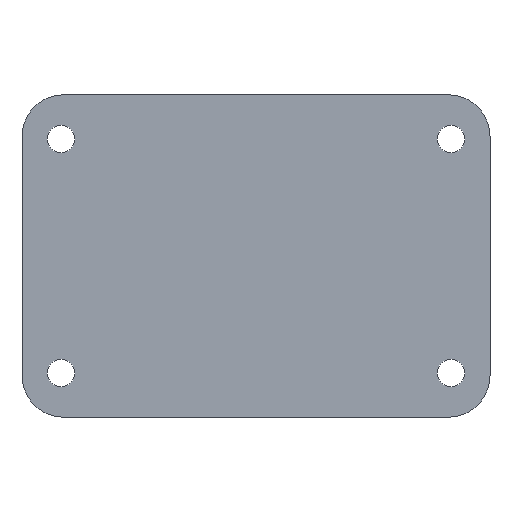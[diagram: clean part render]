
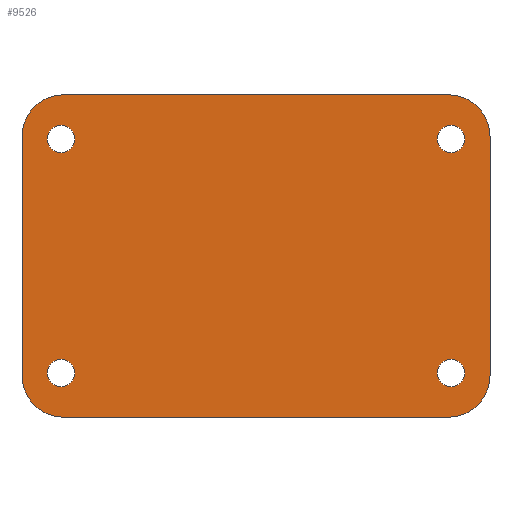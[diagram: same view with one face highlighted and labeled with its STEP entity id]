
A CAD part, front view. The second image highlights one B-rep face of the part: STEP entity #9526.
In plain terms, the highlighted planar face has unit normal (0, -1, 0).
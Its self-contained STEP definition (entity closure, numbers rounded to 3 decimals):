
#169 = FACE_OUTER_BOUND ( 'NONE', #10144, .T. ) ;
#208 = CARTESIAN_POINT ( 'NONE',  ( 37., 0., -23. ) ) ;
#269 = VERTEX_POINT ( 'NONE', #8679 ) ;
#342 = CARTESIAN_POINT ( 'NONE',  ( -37.5, 0., 22.5 ) ) ;
#456 = ORIENTED_EDGE ( 'NONE', *, *, #523, .T. ) ;
#523 = EDGE_CURVE ( 'NONE', #2121, #7831, #737, .T. ) ;
#538 = VERTEX_POINT ( 'NONE', #17700 ) ;
#673 = VERTEX_POINT ( 'NONE', #16707 ) ;
#737 = CIRCLE ( 'NONE', #6857, 2.65 ) ;
#814 = CARTESIAN_POINT ( 'NONE',  ( -37.5, 0., -22.5 ) ) ;
#841 = ORIENTED_EDGE ( 'NONE', *, *, #9748, .F. ) ;
#1061 = EDGE_CURVE ( 'NONE', #673, #12249, #11031, .T. ) ;
#1107 = DIRECTION ( 'NONE',  ( 0., 1., 0. ) ) ;
#1270 = DIRECTION ( 'NONE',  ( 0., 1., 0. ) ) ;
#1365 = CARTESIAN_POINT ( 'NONE',  ( -37.5, 0., 22.5 ) ) ;
#1441 = DIRECTION ( 'NONE',  ( 0., 0., -1. ) ) ;
#1506 = AXIS2_PLACEMENT_3D ( 'NONE', #814, #14577, #11650 ) ;
#1528 = DIRECTION ( 'NONE',  ( 0., 1., 0. ) ) ;
#1663 = CARTESIAN_POINT ( 'NONE',  ( 37.5, 0., -22.5 ) ) ;
#1712 = ORIENTED_EDGE ( 'NONE', *, *, #16436, .F. ) ;
#1716 = ORIENTED_EDGE ( 'NONE', *, *, #14119, .F. ) ;
#1872 = ORIENTED_EDGE ( 'NONE', *, *, #6082, .T. ) ;
#1965 = AXIS2_PLACEMENT_3D ( 'NONE', #342, #6028, #3116 ) ;
#1977 = VERTEX_POINT ( 'NONE', #9535 ) ;
#2051 = AXIS2_PLACEMENT_3D ( 'NONE', #1365, #1270, #10990 ) ;
#2121 = VERTEX_POINT ( 'NONE', #6452 ) ;
#2128 = CIRCLE ( 'NONE', #7652, 8. ) ;
#2248 = CIRCLE ( 'NONE', #1965, 2.65 ) ;
#2367 = CIRCLE ( 'NONE', #16322, 8. ) ;
#2416 = CARTESIAN_POINT ( 'NONE',  ( -37.5, 0., -22.5 ) ) ;
#2458 = CARTESIAN_POINT ( 'NONE',  ( -37., 0., 23. ) ) ;
#2520 = DIRECTION ( 'NONE',  ( 0., 0., 1. ) ) ;
#2761 = AXIS2_PLACEMENT_3D ( 'NONE', #14011, #11083, #9727 ) ;
#3073 = EDGE_CURVE ( 'NONE', #8973, #16303, #10478, .T. ) ;
#3091 = CARTESIAN_POINT ( 'NONE',  ( -37., 0., -31. ) ) ;
#3116 = DIRECTION ( 'NONE',  ( 0., 0., -1. ) ) ;
#3172 = CARTESIAN_POINT ( 'NONE',  ( 37.5, 0., -25.15 ) ) ;
#3356 = LINE ( 'NONE', #16844, #9123 ) ;
#3412 = VERTEX_POINT ( 'NONE', #13204 ) ;
#3461 = LINE ( 'NONE', #7602, #5637 ) ;
#3661 = CARTESIAN_POINT ( 'NONE',  ( 37.5, 0., 19.85 ) ) ;
#4174 = CIRCLE ( 'NONE', #1506, 2.65 ) ;
#4216 = FACE_BOUND ( 'NONE', #13240, .T. ) ;
#4217 = AXIS2_PLACEMENT_3D ( 'NONE', #14005, #1528, #9718 ) ;
#4237 = CARTESIAN_POINT ( 'NONE',  ( -45., 0., 23. ) ) ;
#4277 = CIRCLE ( 'NONE', #11209, 2.65 ) ;
#4393 = DIRECTION ( 'NONE',  ( 0., 1., 0. ) ) ;
#4789 = VERTEX_POINT ( 'NONE', #3091 ) ;
#5067 = VECTOR ( 'NONE', #15120, 1000. ) ;
#5517 = CARTESIAN_POINT ( 'NONE',  ( -37.5, 0., -25.15 ) ) ;
#5529 = EDGE_CURVE ( 'NONE', #16303, #8973, #14675, .T. ) ;
#5578 = CARTESIAN_POINT ( 'NONE',  ( -37., 0., 31. ) ) ;
#5598 = DIRECTION ( 'NONE',  ( 0., 1., 0. ) ) ;
#5637 = VECTOR ( 'NONE', #13172, 1000. ) ;
#5767 = LINE ( 'NONE', #5578, #5067 ) ;
#6011 = CARTESIAN_POINT ( 'NONE',  ( -37.5, 0., 19.85 ) ) ;
#6028 = DIRECTION ( 'NONE',  ( 0., 1., 0. ) ) ;
#6082 = EDGE_CURVE ( 'NONE', #12380, #6873, #7709, .T. ) ;
#6452 = CARTESIAN_POINT ( 'NONE',  ( -37.5, 0., -19.85 ) ) ;
#6493 = CIRCLE ( 'NONE', #10544, 8. ) ;
#6857 = AXIS2_PLACEMENT_3D ( 'NONE', #2416, #9412, #2520 ) ;
#6873 = VERTEX_POINT ( 'NONE', #17481 ) ;
#7074 = EDGE_CURVE ( 'NONE', #12249, #673, #2248, .T. ) ;
#7116 = DIRECTION ( 'NONE',  ( 0., 1., 0. ) ) ;
#7602 = CARTESIAN_POINT ( 'NONE',  ( -37., 0., -31. ) ) ;
#7652 = AXIS2_PLACEMENT_3D ( 'NONE', #208, #5598, #11300 ) ;
#7709 = CIRCLE ( 'NONE', #13537, 2.65 ) ;
#7831 = VERTEX_POINT ( 'NONE', #5517 ) ;
#8155 = FACE_BOUND ( 'NONE', #9223, .T. ) ;
#8391 = EDGE_CURVE ( 'NONE', #7831, #2121, #4174, .T. ) ;
#8532 = ORIENTED_EDGE ( 'NONE', *, *, #17091, .T. ) ;
#8648 = CARTESIAN_POINT ( 'NONE',  ( 37.5, 0., 22.5 ) ) ;
#8679 = CARTESIAN_POINT ( 'NONE',  ( -37., 0., 31. ) ) ;
#8803 = CARTESIAN_POINT ( 'NONE',  ( 37.5, 0., 22.5 ) ) ;
#8960 = DIRECTION ( 'NONE',  ( 0., 0., 1. ) ) ;
#8973 = VERTEX_POINT ( 'NONE', #3172 ) ;
#9040 = EDGE_CURVE ( 'NONE', #3412, #4789, #3461, .T. ) ;
#9123 = VECTOR ( 'NONE', #8960, 1000. ) ;
#9223 = EDGE_LOOP ( 'NONE', ( #17992, #456 ) ) ;
#9412 = DIRECTION ( 'NONE',  ( 0., 1., 0. ) ) ;
#9526 = ADVANCED_FACE ( 'NONE', ( #8155, #4216, #17993, #9897, #169 ), #12622, .F. ) ;
#9535 = CARTESIAN_POINT ( 'NONE',  ( 45., 0., -23. ) ) ;
#9718 = DIRECTION ( 'NONE',  ( 1., 0., 0. ) ) ;
#9727 = DIRECTION ( 'NONE',  ( 0., 0., -1. ) ) ;
#9748 = EDGE_CURVE ( 'NONE', #10857, #14781, #3356, .T. ) ;
#9897 = FACE_BOUND ( 'NONE', #14187, .T. ) ;
#10144 = EDGE_LOOP ( 'NONE', ( #17197, #11641, #11072, #841, #14968, #15219, #1716, #1712 ) ) ;
#10478 = CIRCLE ( 'NONE', #17743, 2.65 ) ;
#10494 = VERTEX_POINT ( 'NONE', #15579 ) ;
#10499 = CARTESIAN_POINT ( 'NONE',  ( -45., 0., -23. ) ) ;
#10544 = AXIS2_PLACEMENT_3D ( 'NONE', #12641, #13751, #16946 ) ;
#10857 = VERTEX_POINT ( 'NONE', #10499 ) ;
#10990 = DIRECTION ( 'NONE',  ( 0., 0., -1. ) ) ;
#11031 = CIRCLE ( 'NONE', #2051, 2.65 ) ;
#11072 = ORIENTED_EDGE ( 'NONE', *, *, #12201, .F. ) ;
#11083 = DIRECTION ( 'NONE',  ( 0., 1., 0. ) ) ;
#11209 = AXIS2_PLACEMENT_3D ( 'NONE', #8803, #4393, #14382 ) ;
#11212 = DIRECTION ( 'NONE',  ( 0., 0., -1. ) ) ;
#11300 = DIRECTION ( 'NONE',  ( 0., 0., 1. ) ) ;
#11392 = EDGE_CURVE ( 'NONE', #4789, #10857, #16143, .T. ) ;
#11544 = EDGE_LOOP ( 'NONE', ( #1872, #8532 ) ) ;
#11641 = ORIENTED_EDGE ( 'NONE', *, *, #14410, .F. ) ;
#11650 = DIRECTION ( 'NONE',  ( 0., 0., 1. ) ) ;
#11677 = DIRECTION ( 'NONE',  ( 0., 0., -1. ) ) ;
#12021 = ORIENTED_EDGE ( 'NONE', *, *, #3073, .T. ) ;
#12201 = EDGE_CURVE ( 'NONE', #14781, #269, #2367, .T. ) ;
#12249 = VERTEX_POINT ( 'NONE', #6011 ) ;
#12380 = VERTEX_POINT ( 'NONE', #3661 ) ;
#12410 = LINE ( 'NONE', #16529, #13807 ) ;
#12622 = PLANE ( 'NONE',  #4217 ) ;
#12641 = CARTESIAN_POINT ( 'NONE',  ( 37., 0., 23. ) ) ;
#13172 = DIRECTION ( 'NONE',  ( -1., 0., 0. ) ) ;
#13204 = CARTESIAN_POINT ( 'NONE',  ( 37., 0., -31. ) ) ;
#13240 = EDGE_LOOP ( 'NONE', ( #16629, #14854 ) ) ;
#13537 = AXIS2_PLACEMENT_3D ( 'NONE', #8648, #14221, #15319 ) ;
#13557 = DIRECTION ( 'NONE',  ( 0., 1., 0. ) ) ;
#13696 = CARTESIAN_POINT ( 'NONE',  ( 37.5, 0., -19.85 ) ) ;
#13751 = DIRECTION ( 'NONE',  ( 0., 1., 0. ) ) ;
#13807 = VECTOR ( 'NONE', #11677, 1000. ) ;
#14005 = CARTESIAN_POINT ( 'NONE',  ( 37., 0., 23. ) ) ;
#14011 = CARTESIAN_POINT ( 'NONE',  ( 37.5, 0., -22.5 ) ) ;
#14119 = EDGE_CURVE ( 'NONE', #1977, #3412, #2128, .T. ) ;
#14187 = EDGE_LOOP ( 'NONE', ( #12021, #17414 ) ) ;
#14221 = DIRECTION ( 'NONE',  ( 0., 1., 0. ) ) ;
#14382 = DIRECTION ( 'NONE',  ( 0., 0., 1. ) ) ;
#14402 = EDGE_CURVE ( 'NONE', #538, #10494, #6493, .T. ) ;
#14410 = EDGE_CURVE ( 'NONE', #269, #538, #5767, .T. ) ;
#14577 = DIRECTION ( 'NONE',  ( 0., 1., 0. ) ) ;
#14589 = DIRECTION ( 'NONE',  ( 0., 0., -1. ) ) ;
#14675 = CIRCLE ( 'NONE', #2761, 2.65 ) ;
#14781 = VERTEX_POINT ( 'NONE', #4237 ) ;
#14854 = ORIENTED_EDGE ( 'NONE', *, *, #1061, .T. ) ;
#14968 = ORIENTED_EDGE ( 'NONE', *, *, #11392, .F. ) ;
#15120 = DIRECTION ( 'NONE',  ( 1., 0., 0. ) ) ;
#15219 = ORIENTED_EDGE ( 'NONE', *, *, #9040, .F. ) ;
#15319 = DIRECTION ( 'NONE',  ( 0., 0., 1. ) ) ;
#15579 = CARTESIAN_POINT ( 'NONE',  ( 45., 0., 23. ) ) ;
#16143 = CIRCLE ( 'NONE', #17911, 8. ) ;
#16303 = VERTEX_POINT ( 'NONE', #13696 ) ;
#16322 = AXIS2_PLACEMENT_3D ( 'NONE', #2458, #13557, #1441 ) ;
#16436 = EDGE_CURVE ( 'NONE', #10494, #1977, #12410, .T. ) ;
#16529 = CARTESIAN_POINT ( 'NONE',  ( 45., 0., 23. ) ) ;
#16629 = ORIENTED_EDGE ( 'NONE', *, *, #7074, .T. ) ;
#16707 = CARTESIAN_POINT ( 'NONE',  ( -37.5, 0., 25.15 ) ) ;
#16844 = CARTESIAN_POINT ( 'NONE',  ( -45., 0., 23. ) ) ;
#16946 = DIRECTION ( 'NONE',  ( 0., 0., 1. ) ) ;
#17091 = EDGE_CURVE ( 'NONE', #6873, #12380, #4277, .T. ) ;
#17197 = ORIENTED_EDGE ( 'NONE', *, *, #14402, .F. ) ;
#17414 = ORIENTED_EDGE ( 'NONE', *, *, #5529, .T. ) ;
#17481 = CARTESIAN_POINT ( 'NONE',  ( 37.5, 0., 25.15 ) ) ;
#17581 = CARTESIAN_POINT ( 'NONE',  ( -37., 0., -23. ) ) ;
#17700 = CARTESIAN_POINT ( 'NONE',  ( 37., 0., 31. ) ) ;
#17743 = AXIS2_PLACEMENT_3D ( 'NONE', #1663, #7116, #11212 ) ;
#17911 = AXIS2_PLACEMENT_3D ( 'NONE', #17581, #1107, #14589 ) ;
#17992 = ORIENTED_EDGE ( 'NONE', *, *, #8391, .T. ) ;
#17993 = FACE_BOUND ( 'NONE', #11544, .T. ) ;
